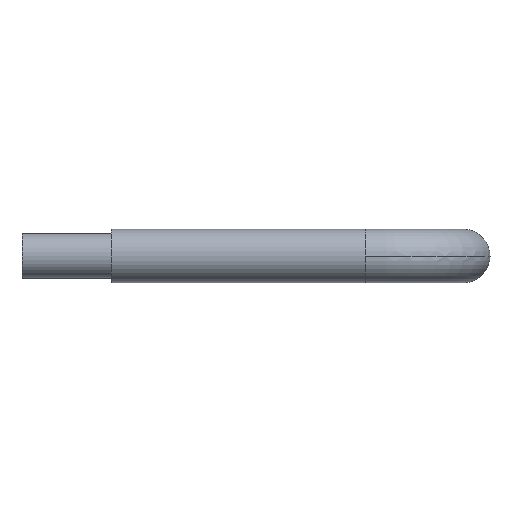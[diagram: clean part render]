
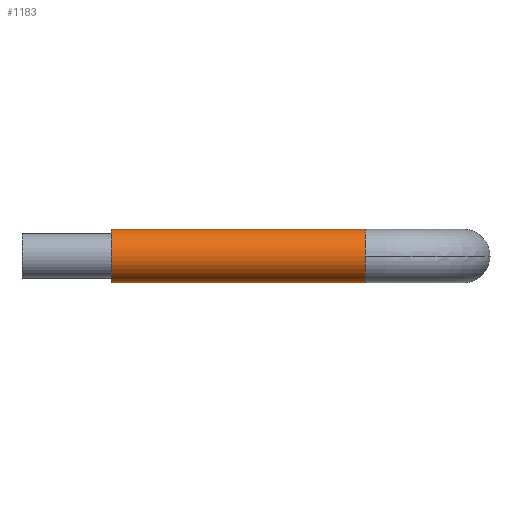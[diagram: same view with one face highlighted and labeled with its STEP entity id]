
A CAD part, left-side view. The second image highlights one B-rep face of the part: STEP entity #1183.
In plain terms, the highlighted cylindrical face has radius 37.5 mm (diameter 75 mm), a partial arc.
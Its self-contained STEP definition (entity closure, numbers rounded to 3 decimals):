
#232 = CARTESIAN_POINT ( 'NONE',  ( -341., 137.5, 0. ) ) ;
#233 = CARTESIAN_POINT ( 'NONE',  ( -303.5, 137.5, -37.5 ) ) ;
#252 = CARTESIAN_POINT ( 'NONE',  ( -303.5, 137.5, 37.5 ) ) ;
#263 = CARTESIAN_POINT ( 'NONE',  ( -303.5, 493.5, -37.5 ) ) ;
#264 = CARTESIAN_POINT ( 'NONE',  ( -303.5, 493.5, 37.5 ) ) ;
#393 = LINE ( 'NONE', #401, #558 ) ;
#401 = CARTESIAN_POINT ( 'NONE',  ( -303.5, 137.5, 37.5 ) ) ;
#403 = DIRECTION ( 'NONE',  ( 0., 1., 0. ) ) ;
#416 = CARTESIAN_POINT ( 'NONE',  ( -303.5, 493.5, 0. ) ) ;
#417 = DIRECTION ( 'NONE',  ( 0., -1., 0. ) ) ;
#419 = DIRECTION ( 'NONE',  ( 0., 0., -1. ) ) ;
#448 = CIRCLE ( 'NONE', #457, 37.5 ) ;
#449 = CARTESIAN_POINT ( 'NONE',  ( -303.5, 137.5, 0. ) ) ;
#451 = DIRECTION ( 'NONE',  ( 0., -1., 0. ) ) ;
#453 = DIRECTION ( 'NONE',  ( 0., 0., -1. ) ) ;
#457 = AXIS2_PLACEMENT_3D ( 'NONE', #1283, #1284, #1285 ) ;
#513 = AXIS2_PLACEMENT_3D ( 'NONE', #1404, #1396, #1405 ) ;
#548 = VECTOR ( 'NONE', #1526, 1000. ) ;
#558 = VECTOR ( 'NONE', #403, 1000. ) ;
#564 = CIRCLE ( 'NONE', #568, 37.5 ) ;
#568 = AXIS2_PLACEMENT_3D ( 'NONE', #416, #417, #419 ) ;
#577 = CIRCLE ( 'NONE', #584, 37.5 ) ;
#584 = AXIS2_PLACEMENT_3D ( 'NONE', #449, #451, #453 ) ;
#763 = EDGE_LOOP ( 'NONE', ( #1123, #1078, #1077, #1066, #1121 ) ) ;
#783 = VERTEX_POINT ( 'NONE', #232 ) ;
#784 = VERTEX_POINT ( 'NONE', #233 ) ;
#803 = VERTEX_POINT ( 'NONE', #252 ) ;
#813 = VERTEX_POINT ( 'NONE', #263 ) ;
#814 = VERTEX_POINT ( 'NONE', #264 ) ;
#1066 = ORIENTED_EDGE ( 'NONE', *, *, #1206, .T. ) ;
#1077 = ORIENTED_EDGE ( 'NONE', *, *, #1213, .F. ) ;
#1078 = ORIENTED_EDGE ( 'NONE', *, *, #1164, .F. ) ;
#1121 = ORIENTED_EDGE ( 'NONE', *, *, #1208, .T. ) ;
#1123 = ORIENTED_EDGE ( 'NONE', *, *, #1203, .F. ) ;
#1164 = EDGE_CURVE ( 'NONE', #783, #784, #448, .T. ) ;
#1183 = ADVANCED_FACE ( 'NONE', ( #1400 ), #1395, .T. ) ;
#1203 = EDGE_CURVE ( 'NONE', #784, #813, #1524, .T. ) ;
#1206 = EDGE_CURVE ( 'NONE', #803, #814, #393, .T. ) ;
#1208 = EDGE_CURVE ( 'NONE', #814, #813, #564, .T. ) ;
#1213 = EDGE_CURVE ( 'NONE', #803, #783, #577, .T. ) ;
#1283 = CARTESIAN_POINT ( 'NONE',  ( -303.5, 137.5, 0. ) ) ;
#1284 = DIRECTION ( 'NONE',  ( 0., -1., 0. ) ) ;
#1285 = DIRECTION ( 'NONE',  ( 0., 0., -1. ) ) ;
#1395 = CYLINDRICAL_SURFACE ( 'NONE', #513, 37.5 ) ;
#1396 = DIRECTION ( 'NONE',  ( 0., 1., 0. ) ) ;
#1400 = FACE_OUTER_BOUND ( 'NONE', #763, .T. ) ;
#1404 = CARTESIAN_POINT ( 'NONE',  ( -303.5, 137.5, 0. ) ) ;
#1405 = DIRECTION ( 'NONE',  ( 0., 0., 1. ) ) ;
#1524 = LINE ( 'NONE', #1525, #548 ) ;
#1525 = CARTESIAN_POINT ( 'NONE',  ( -303.5, 137.5, -37.5 ) ) ;
#1526 = DIRECTION ( 'NONE',  ( 0., 1., 0. ) ) ;
